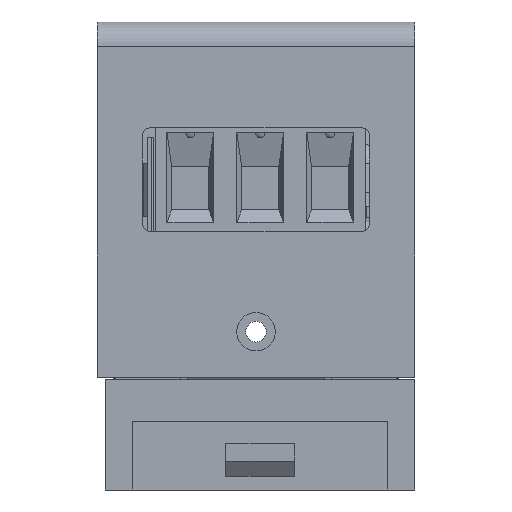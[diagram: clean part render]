
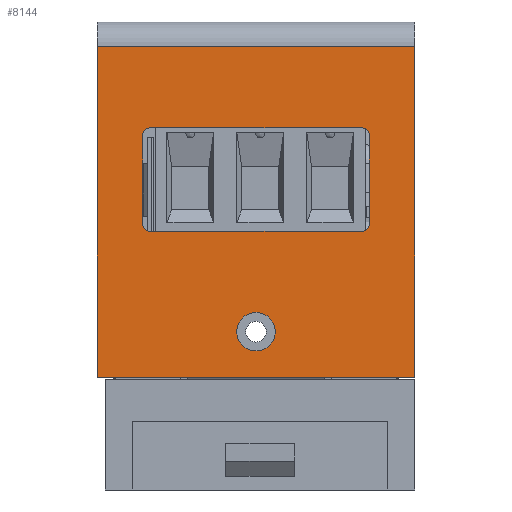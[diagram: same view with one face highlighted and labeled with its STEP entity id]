
A CAD part, front view. The second image highlights one B-rep face of the part: STEP entity #8144.
In plain terms, the highlighted planar face has unit normal (0, -1, 0).
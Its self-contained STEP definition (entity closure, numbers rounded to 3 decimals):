
#1025 = CARTESIAN_POINT ( 'NONE',  ( 17.926, -1.8, 2. ) ) ;
#2725 = CARTESIAN_POINT ( 'NONE',  ( 18.426, -1.8, 2. ) ) ;
#4729 = CARTESIAN_POINT ( 'NONE',  ( 18.426, -1.8, 16.7 ) ) ;
#7223 = CIRCLE ( 'NONE', #39525, 0.5 ) ;
#8144 = ADVANCED_FACE ( 'NONE', ( #53333, #70032, #100343 ), #52089, .F. ) ;
#10000 = DIRECTION ( 'NONE',  ( 0., 0., -1. ) ) ;
#12389 = EDGE_CURVE ( 'NONE', #17135, #68519, #64755, .T. ) ;
#12607 = LINE ( 'NONE', #137696, #29267 ) ;
#13072 = ORIENTED_EDGE ( 'NONE', *, *, #111219, .F. ) ;
#14371 = VECTOR ( 'NONE', #94791, 1000. ) ;
#14620 = VERTEX_POINT ( 'NONE', #109220 ) ;
#15242 = VERTEX_POINT ( 'NONE', #26062 ) ;
#16729 = EDGE_CURVE ( 'NONE', #81350, #135079, #44876, .T. ) ;
#17135 = VERTEX_POINT ( 'NONE', #95013 ) ;
#19764 = VECTOR ( 'NONE', #97477, 1000. ) ;
#20801 = ORIENTED_EDGE ( 'NONE', *, *, #83475, .F. ) ;
#21812 = VERTEX_POINT ( 'NONE', #126721 ) ;
#22229 = ORIENTED_EDGE ( 'NONE', *, *, #34663, .F. ) ;
#23460 = VECTOR ( 'NONE', #105734, 1000. ) ;
#23603 = AXIS2_PLACEMENT_3D ( 'NONE', #108239, #65485, #101115 ) ;
#26062 = CARTESIAN_POINT ( 'NONE',  ( 1.97, -1.8, 2. ) ) ;
#27182 = EDGE_LOOP ( 'NONE', ( #63159, #71654 ) ) ;
#28044 = ORIENTED_EDGE ( 'NONE', *, *, #46719, .F. ) ;
#28612 = AXIS2_PLACEMENT_3D ( 'NONE', #1025, #127868, #10000 ) ;
#28660 = DIRECTION ( 'NONE',  ( 0., 0., -1. ) ) ;
#29227 = DIRECTION ( 'NONE',  ( 1., 0., 0. ) ) ;
#29267 = VECTOR ( 'NONE', #29227, 1000. ) ;
#31540 = EDGE_CURVE ( 'NONE', #62791, #36981, #51271, .T. ) ;
#34087 = VERTEX_POINT ( 'NONE', #133585 ) ;
#34356 = AXIS2_PLACEMENT_3D ( 'NONE', #50865, #106778, #132022 ) ;
#34663 = EDGE_CURVE ( 'NONE', #79381, #15242, #109125, .T. ) ;
#35022 = DIRECTION ( 'NONE',  ( 0., -1., 0. ) ) ;
#36981 = VERTEX_POINT ( 'NONE', #45710 ) ;
#37561 = CARTESIAN_POINT ( 'NONE',  ( 21.75, -1.8, 16.7 ) ) ;
#39525 = AXIS2_PLACEMENT_3D ( 'NONE', #55708, #35022, #67866 ) ;
#41479 = DIRECTION ( 'NONE',  ( 0., 0., -1. ) ) ;
#41512 = ORIENTED_EDGE ( 'NONE', *, *, #112902, .F. ) ;
#41701 = CARTESIAN_POINT ( 'NONE',  ( -1.35, -1.8, 16.7 ) ) ;
#42844 = LINE ( 'NONE', #41701, #14371 ) ;
#43363 = CARTESIAN_POINT ( 'NONE',  ( 18.426, -1.8, 8.5 ) ) ;
#44875 = CARTESIAN_POINT ( 'NONE',  ( 1.97, -1.8, 8.5 ) ) ;
#44876 = CIRCLE ( 'NONE', #89518, 0.5 ) ;
#45710 = CARTESIAN_POINT ( 'NONE',  ( 21.75, -1.8, -9.1 ) ) ;
#46719 = EDGE_CURVE ( 'NONE', #135079, #47918, #109010, .T. ) ;
#47918 = VERTEX_POINT ( 'NONE', #62357 ) ;
#48576 = DIRECTION ( 'NONE',  ( 0., -1., 0. ) ) ;
#50624 = DIRECTION ( 'NONE',  ( 0., 0., -1. ) ) ;
#50865 = CARTESIAN_POINT ( 'NONE',  ( 21.75, -1.8, 16.7 ) ) ;
#51271 = LINE ( 'NONE', #37561, #93359 ) ;
#52089 = PLANE ( 'NONE',  #34356 ) ;
#52169 = EDGE_LOOP ( 'NONE', ( #89403, #28044, #118982, #134628, #63219, #41512, #125853, #22229 ) ) ;
#53333 = FACE_OUTER_BOUND ( 'NONE', #83690, .T. ) ;
#55708 = CARTESIAN_POINT ( 'NONE',  ( 2.47, -1.8, 8.5 ) ) ;
#62357 = CARTESIAN_POINT ( 'NONE',  ( 2.47, -1.8, 9. ) ) ;
#62426 = CARTESIAN_POINT ( 'NONE',  ( 17.926, -1.8, 9. ) ) ;
#62784 = VECTOR ( 'NONE', #80829, 1000. ) ;
#62791 = VERTEX_POINT ( 'NONE', #93913 ) ;
#63159 = ORIENTED_EDGE ( 'NONE', *, *, #72659, .F. ) ;
#63219 = ORIENTED_EDGE ( 'NONE', *, *, #12389, .F. ) ;
#64755 = CIRCLE ( 'NONE', #28612, 0.5 ) ;
#65485 = DIRECTION ( 'NONE',  ( 0., -1., 0. ) ) ;
#67165 = CARTESIAN_POINT ( 'NONE',  ( 21.75, -1.8, 9. ) ) ;
#67866 = DIRECTION ( 'NONE',  ( 0., 0., -1. ) ) ;
#68519 = VERTEX_POINT ( 'NONE', #2725 ) ;
#70032 = FACE_BOUND ( 'NONE', #52169, .T. ) ;
#70287 = VECTOR ( 'NONE', #98172, 1000. ) ;
#71295 = VERTEX_POINT ( 'NONE', #91123 ) ;
#71328 = EDGE_CURVE ( 'NONE', #68519, #81350, #106458, .T. ) ;
#71609 = CARTESIAN_POINT ( 'NONE',  ( 10.2, -1.8, -5.8 ) ) ;
#71654 = ORIENTED_EDGE ( 'NONE', *, *, #120321, .F. ) ;
#72659 = EDGE_CURVE ( 'NONE', #71295, #14620, #115883, .T. ) ;
#79381 = VERTEX_POINT ( 'NONE', #44875 ) ;
#80829 = DIRECTION ( 'NONE',  ( 0., 0., 1. ) ) ;
#81350 = VERTEX_POINT ( 'NONE', #43363 ) ;
#83475 = EDGE_CURVE ( 'NONE', #21812, #62791, #102752, .T. ) ;
#83690 = EDGE_LOOP ( 'NONE', ( #88984, #84908, #20801, #13072 ) ) ;
#84908 = ORIENTED_EDGE ( 'NONE', *, *, #31540, .F. ) ;
#87862 = CIRCLE ( 'NONE', #23603, 0.5 ) ;
#88984 = ORIENTED_EDGE ( 'NONE', *, *, #117392, .F. ) ;
#89403 = ORIENTED_EDGE ( 'NONE', *, *, #93687, .F. ) ;
#89518 = AXIS2_PLACEMENT_3D ( 'NONE', #139147, #138674, #107693 ) ;
#91123 = CARTESIAN_POINT ( 'NONE',  ( 10.2, -1.8, -7.2 ) ) ;
#91897 = LINE ( 'NONE', #128527, #19764 ) ;
#93359 = VECTOR ( 'NONE', #28660, 1000. ) ;
#93687 = EDGE_CURVE ( 'NONE', #47918, #79381, #7223, .T. ) ;
#93913 = CARTESIAN_POINT ( 'NONE',  ( 21.75, -1.8, 14.9 ) ) ;
#94791 = DIRECTION ( 'NONE',  ( 0., 0., 1. ) ) ;
#95013 = CARTESIAN_POINT ( 'NONE',  ( 17.926, -1.8, 1.5 ) ) ;
#97477 = DIRECTION ( 'NONE',  ( -1., 0., 0. ) ) ;
#98172 = DIRECTION ( 'NONE',  ( -1., 0., 0. ) ) ;
#99494 = CARTESIAN_POINT ( 'NONE',  ( 21.75, -1.8, 14.9 ) ) ;
#100343 = FACE_BOUND ( 'NONE', #27182, .T. ) ;
#101115 = DIRECTION ( 'NONE',  ( 0., 0., -1. ) ) ;
#101446 = EDGE_CURVE ( 'NONE', #15242, #105555, #87862, .T. ) ;
#102752 = LINE ( 'NONE', #99494, #127956 ) ;
#105555 = VERTEX_POINT ( 'NONE', #113532 ) ;
#105734 = DIRECTION ( 'NONE',  ( 0., 0., -1. ) ) ;
#106458 = LINE ( 'NONE', #4729, #62784 ) ;
#106778 = DIRECTION ( 'NONE',  ( 0., 1., 0. ) ) ;
#107693 = DIRECTION ( 'NONE',  ( 0., 0., -1. ) ) ;
#108239 = CARTESIAN_POINT ( 'NONE',  ( 2.47, -1.8, 2. ) ) ;
#109010 = LINE ( 'NONE', #67165, #70287 ) ;
#109125 = LINE ( 'NONE', #136718, #23460 ) ;
#109220 = CARTESIAN_POINT ( 'NONE',  ( 10.2, -1.8, -4.4 ) ) ;
#111219 = EDGE_CURVE ( 'NONE', #34087, #21812, #42844, .T. ) ;
#112902 = EDGE_CURVE ( 'NONE', #105555, #17135, #12607, .T. ) ;
#113532 = CARTESIAN_POINT ( 'NONE',  ( 2.47, -1.8, 1.5 ) ) ;
#114997 = CARTESIAN_POINT ( 'NONE',  ( 10.2, -1.8, -5.8 ) ) ;
#115883 = CIRCLE ( 'NONE', #139364, 1.4 ) ;
#117392 = EDGE_CURVE ( 'NONE', #36981, #34087, #91897, .T. ) ;
#118982 = ORIENTED_EDGE ( 'NONE', *, *, #16729, .F. ) ;
#120321 = EDGE_CURVE ( 'NONE', #14620, #71295, #134097, .T. ) ;
#125853 = ORIENTED_EDGE ( 'NONE', *, *, #101446, .F. ) ;
#126721 = CARTESIAN_POINT ( 'NONE',  ( -1.35, -1.8, 14.9 ) ) ;
#127868 = DIRECTION ( 'NONE',  ( 0., -1., 0. ) ) ;
#127956 = VECTOR ( 'NONE', #134247, 1000. ) ;
#128527 = CARTESIAN_POINT ( 'NONE',  ( 21.75, -1.8, -9.1 ) ) ;
#130180 = AXIS2_PLACEMENT_3D ( 'NONE', #114997, #135678, #50624 ) ;
#132022 = DIRECTION ( 'NONE',  ( 0., 0., 1. ) ) ;
#133585 = CARTESIAN_POINT ( 'NONE',  ( -1.35, -1.8, -9.1 ) ) ;
#134097 = CIRCLE ( 'NONE', #130180, 1.4 ) ;
#134247 = DIRECTION ( 'NONE',  ( 1., 0., 0. ) ) ;
#134628 = ORIENTED_EDGE ( 'NONE', *, *, #71328, .F. ) ;
#135079 = VERTEX_POINT ( 'NONE', #62426 ) ;
#135678 = DIRECTION ( 'NONE',  ( 0., -1., 0. ) ) ;
#136718 = CARTESIAN_POINT ( 'NONE',  ( 1.97, -1.8, 16.7 ) ) ;
#137696 = CARTESIAN_POINT ( 'NONE',  ( 21.75, -1.8, 1.5 ) ) ;
#138674 = DIRECTION ( 'NONE',  ( 0., -1., 0. ) ) ;
#139147 = CARTESIAN_POINT ( 'NONE',  ( 17.926, -1.8, 8.5 ) ) ;
#139364 = AXIS2_PLACEMENT_3D ( 'NONE', #71609, #48576, #41479 ) ;
